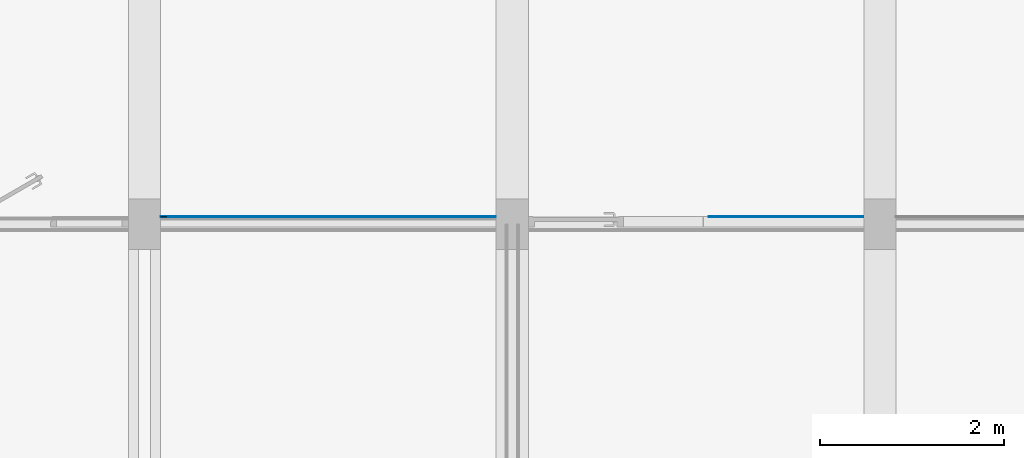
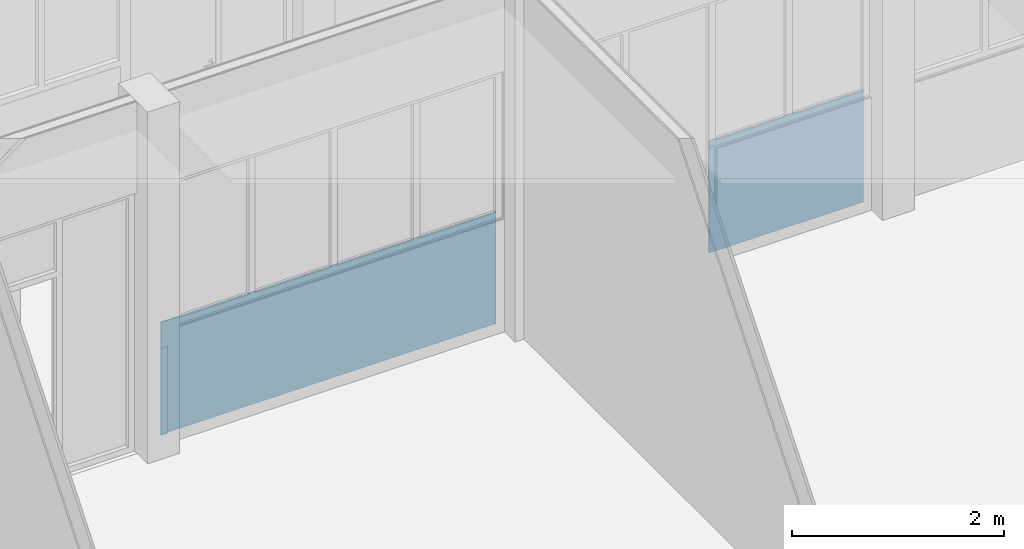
# One storey, part 15 of 54: 3 walls.
"""IFC2X3 building model written with IfcOpenShell, lengths in millimetres."""

from ifc_helpers import new_model, entity, si_unit, converted_unit, derived_unit, money_unit, direction, frame, origin_with_axes, place, context, subcontext, project, spatial, faceted_brep, material, type_object, element, save


model = new_model("IFC2X3")

# Units and contexts
model_context = context("Model", 3, precision=0.01, world=origin_with_axes(), true_north=direction((0.0, 1.0)))
body_context = subcontext(model_context, "Body", "Model", "MODEL_VIEW")
ifc_project = project(units=[si_unit("LENGTHUNIT", "METRE", prefix="MILLI"), si_unit("AREAUNIT", "SQUARE_METRE"), si_unit("VOLUMEUNIT", "CUBIC_METRE"), converted_unit("PLANEANGLEUNIT", "DEGREE", entity("IfcPlaneAngleMeasure", 0.0174532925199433), si_unit("PLANEANGLEUNIT", "RADIAN"), dimensions=[0, 0, 0, 0, 0, 0, 0]), money_unit("EUR"), converted_unit("TIMEUNIT", "Year", entity("IfcTimeMeasure", 31557600.0), si_unit("TIMEUNIT", "SECOND"), dimensions=[0, 0, 1, 0, 0, 0, 0]), si_unit("MASSUNIT", "GRAM", prefix="KILO"), si_unit("THERMODYNAMICTEMPERATUREUNIT", "DEGREE_CELSIUS"), si_unit("LUMINOUSINTENSITYUNIT", "LUMEN"), si_unit("ENERGYUNIT", "JOULE", prefix="MEGA"), derived_unit("THERMALCONDUCTANCEUNIT", [(si_unit("POWERUNIT", "WATT"), 1), (si_unit("LENGTHUNIT", "METRE"), -1), (si_unit("THERMODYNAMICTEMPERATUREUNIT", "KELVIN"), -1)]), derived_unit("SPECIFICHEATCAPACITYUNIT", [(si_unit("ENERGYUNIT", "JOULE"), 1), (si_unit("MASSUNIT", "GRAM", prefix="KILO"), -1), (si_unit("THERMODYNAMICTEMPERATUREUNIT", "KELVIN"), -1)]), derived_unit("MASSDENSITYUNIT", [(si_unit("MASSUNIT", "GRAM", prefix="KILO"), 1), (si_unit("VOLUMEUNIT", "CUBIC_METRE"), -1)])], contexts=[model_context])

# Site, building, storey
site_placement = place(None, origin_with_axes())
site = spatial("IfcSite", under=ifc_project, at=site_placement, Name="<site naam>", CompositionType="ELEMENT")
building_placement = place(site_placement, origin_with_axes())
building = spatial("IfcBuilding", under=site, at=building_placement, Name="<Naam gebouw>", CompositionType="ELEMENT")
storey_placement = place(building_placement, frame((0.0, 0.0, 8500.0), z_axis=(0.0, 0.0, 1.0), x_axis=(1.0, 0.0, 0.0)))
storey = spatial("IfcBuildingStorey", under=building, at=storey_placement, Name="02 2e verdieping", CompositionType="ELEMENT", Elevation=8500.0)

# Walls
ifc_material = material(Name="ALG - BUITENAFWERKING")
wall_type = type_object("IfcWallType", Name="ALG - BUITENAFWERKING 10", PredefinedType="NOTDEFINED")
wall_1_placement = place(storey_placement, frame((28175.00000000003, 8075.000000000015, -3.000000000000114), z_axis=(0.0, 0.0, 1.0), x_axis=(1.0, 0.0, 0.0)))
element("IfcWall", 1, at=wall_1_placement, inside=storey, type_object=wall_type, material=ifc_material, Name="42_Binnenwand_ALG", context=body_context, shape_type="Brep", body=[
    faceted_brep([(0.0, 9.999999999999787, 0.0), (0.0, 9.999999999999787, 3.000000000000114), (67.00000000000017, 9.999999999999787, 3.000000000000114), (67.00000000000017, 9.999999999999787, 0.0), (0.0, 0.0, 0.0), (0.0, 3.207235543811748e-05, 3.000000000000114), (67.00000000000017, 3.193600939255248e-05, 3.000000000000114), (67.00000000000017, 0.0, 0.0)], [[[0, 1, 2, 3]], [[4, 5, 1, 0]], [[5, 6, 2, 1]], [[3, 2, 6, 7]], [[4, 0, 3, 7]], [[7, 6, 5, 4]]]),
    faceted_brep([(67.00000000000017, 0.0, 1002.000000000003), (67.00000000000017, 3.193600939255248e-05, 6.000000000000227), (67.00000000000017, 9.999999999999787, 6.000000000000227), (67.00000000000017, 9.999999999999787, 1002.000000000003), (0.0, 0.0, 1002.000000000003), (0.0, 3.207235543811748e-05, 6.000000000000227), (0.0, 9.999999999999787, 6.000000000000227), (0.0, 9.999999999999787, 1002.000000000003)], [[[0, 1, 2, 3]], [[4, 5, 1, 0]], [[5, 6, 2, 1]], [[3, 2, 6, 7]], [[7, 4, 0, 3]], [[7, 6, 5, 4]]]),
])
wall_2_placement = place(storey_placement, frame((28175.00000000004, 8075.000000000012, 5.421610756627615), z_axis=(0.0, 0.0, 1.0), x_axis=(1.0, 0.0, 0.0)))
element("IfcWall", 2, at=wall_2_placement, inside=storey, type_object=wall_type, material=ifc_material, Name="42_Binnenwand_ALG", context=body_context, shape_type="Brep", body=[
    faceted_brep([(0.0, 0.0, 1292.000000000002), (3646.000000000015, 0.0, 1292.000000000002), (3646.000000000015, 9.999999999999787, 1292.000000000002), (0.0, 9.999999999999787, 1292.000000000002), (0.0, 0.0, 0.0), (3646.000000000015, 0.0, 0.0), (3646.000000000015, 9.999999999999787, 0.0), (0.0, 9.999999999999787, 0.0)], [[[0, 1, 2, 3]], [[4, 5, 1, 0]], [[2, 1, 5, 6]], [[3, 2, 6, 7]], [[4, 0, 3, 7]], [[7, 6, 5, 4]]]),
])
wall_3_placement = place(storey_placement, frame((34140.4597824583, 8075.000000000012, 5.421610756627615), z_axis=(0.0, 0.0, 1.0), x_axis=(1.0, 0.0, 0.0)))
element("IfcWall", 3, at=wall_3_placement, inside=storey, type_object=wall_type, material=ifc_material, Name="42_Binnenwand_ALG", context=body_context, shape_type="Brep", body=[
    faceted_brep([(0.0, 0.0, 1292.000000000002), (1680.540217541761, 0.0, 1292.000000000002), (1680.540217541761, 9.999999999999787, 1292.000000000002), (0.0, 9.999999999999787, 1292.000000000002), (0.0, 0.0, 0.0), (1680.540217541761, 0.0, 0.0), (1680.540217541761, 9.999999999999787, 0.0), (0.0, 9.999999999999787, 0.0)], [[[0, 1, 2, 3]], [[4, 5, 1, 0]], [[2, 1, 5, 6]], [[3, 2, 6, 7]], [[4, 0, 3, 7]], [[7, 6, 5, 4]]]),
])

save(model, "model.ifc")
